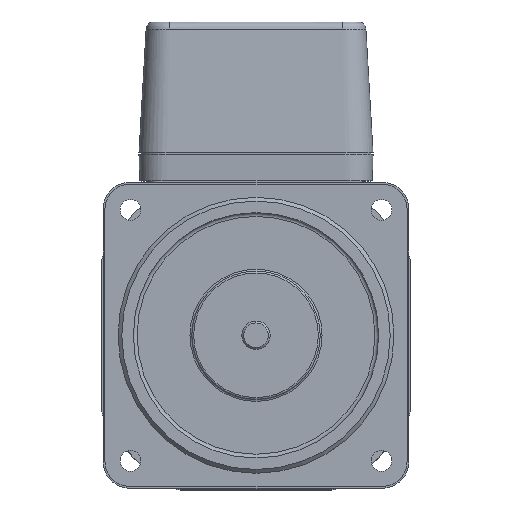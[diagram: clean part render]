
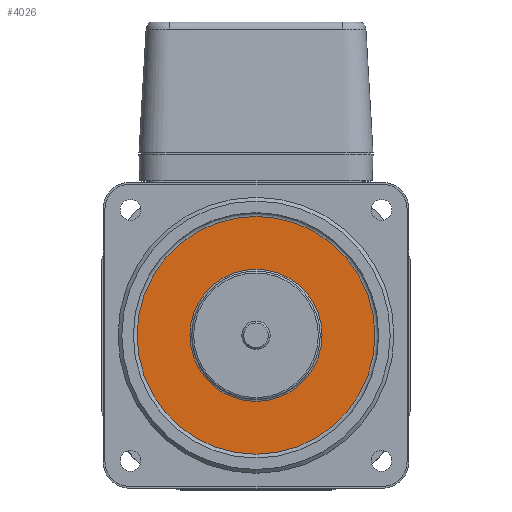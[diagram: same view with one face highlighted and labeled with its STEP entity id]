
A CAD part, top view. The second image highlights one B-rep face of the part: STEP entity #4026.
In plain terms, the highlighted planar face has unit normal (0, 0, 1).
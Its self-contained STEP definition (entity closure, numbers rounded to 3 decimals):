
#528 = DIRECTION ( 'NONE',  ( 1., 0., 0. ) ) ;
#847 = ORIENTED_EDGE ( 'NONE', *, *, #2339, .T. ) ;
#1317 = EDGE_LOOP ( 'NONE', ( #847 ) ) ;
#1408 = CIRCLE ( 'NONE', #7091, 31.5 ) ;
#2003 = FACE_BOUND ( 'NONE', #1317, .T. ) ;
#2339 = EDGE_CURVE ( 'NONE', #3639, #3639, #7941, .T. ) ;
#2348 = DIRECTION ( 'NONE',  ( 1., 0., 0. ) ) ;
#3152 = DIRECTION ( 'NONE',  ( 0., 0., 1. ) ) ;
#3254 = AXIS2_PLACEMENT_3D ( 'NONE', #8003, #9889, #528 ) ;
#3273 = ORIENTED_EDGE ( 'NONE', *, *, #11651, .T. ) ;
#3639 = VERTEX_POINT ( 'NONE', #9162 ) ;
#3700 = CARTESIAN_POINT ( 'NONE',  ( 31.5, 0., -3.3 ) ) ;
#4026 = ADVANCED_FACE ( 'NONE', ( #12102, #2003 ), #4697, .T. ) ;
#4070 = DIRECTION ( 'NONE',  ( 1., 0., 0. ) ) ;
#4697 = PLANE ( 'NONE',  #11985 ) ;
#5010 = CARTESIAN_POINT ( 'NONE',  ( 0., 0., -3.3 ) ) ;
#6095 = EDGE_LOOP ( 'NONE', ( #3273 ) ) ;
#7091 = AXIS2_PLACEMENT_3D ( 'NONE', #9826, #11713, #2348 ) ;
#7941 = CIRCLE ( 'NONE', #3254, 17.5 ) ;
#8003 = CARTESIAN_POINT ( 'NONE',  ( 0., 0., -3.3 ) ) ;
#9162 = CARTESIAN_POINT ( 'NONE',  ( 17.5, 0., -3.3 ) ) ;
#9266 = VERTEX_POINT ( 'NONE', #3700 ) ;
#9826 = CARTESIAN_POINT ( 'NONE',  ( 0., 0., -3.3 ) ) ;
#9889 = DIRECTION ( 'NONE',  ( 0., 0., -1. ) ) ;
#11651 = EDGE_CURVE ( 'NONE', #9266, #9266, #1408, .T. ) ;
#11713 = DIRECTION ( 'NONE',  ( 0., 0., 1. ) ) ;
#11985 = AXIS2_PLACEMENT_3D ( 'NONE', #5010, #3152, #4070 ) ;
#12102 = FACE_OUTER_BOUND ( 'NONE', #6095, .T. ) ;
